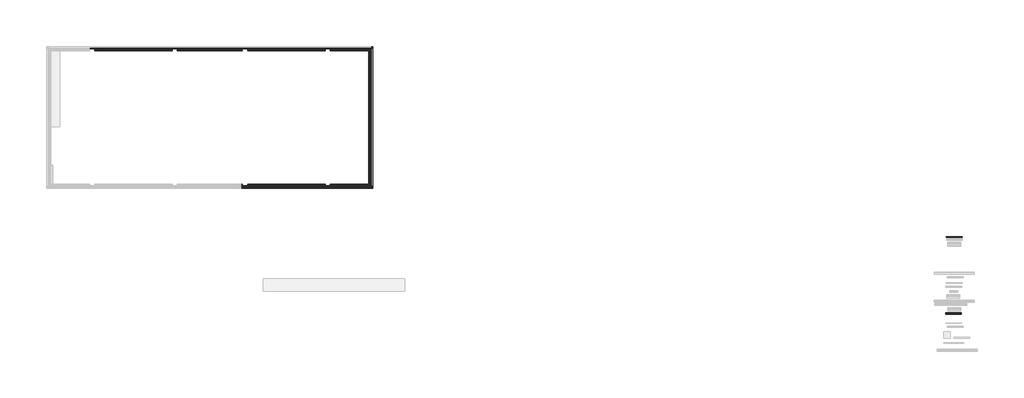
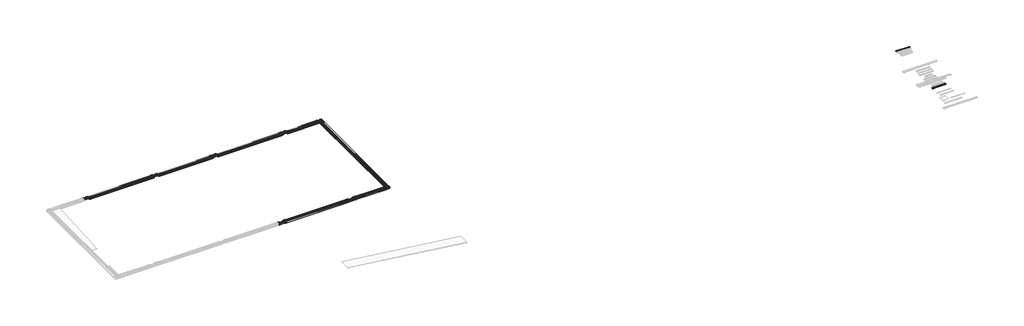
# One storey, part 2 of 2: 60 slabs, 39 proxies.
"""IFC4 building model written with IfcOpenShell, lengths in millimetres."""

from ifc_helpers import new_model, si_unit, origin, place, context, project, spatial, transform, mapped, element, save
from components import generic_models_aabe8a61, generic_models_0c7c71ab, bloque_rs_913_6b054df1, bloque_rs_913_14df28d0, bloque_rs_916_1ec51204, bloque_rs_916_4c591605, bloque_rs_917_cf75d2b8, bloque_rs_917_e40e730b, pieza_043_aqua_blanco_anti_slip_ae11da6b, pieza_043_aqua_blanco_anti_slip_a5cfc191, pieza_087_aqua_blanco_anti_slip_ab740b2f, pieza_087_aqua_blanco_anti_slip_4671dbe1, rejilla_245_e2_blanco_63b6c073, rejilla_245_e2_blanco_29759594, slab_2bb9063e, slab_b30ec969, slab_7c7728e6, slab_9c0a884b, slab_1b1e1d0a, slab_0c901df1, slab_ed70fe2e, slab_fd2e0ca4, slab_71a26456, slab_289a159b, slab_20dd2a74, slab_b96cdf43, slab_47180fc9, slab_3d5daa41, bloque_rs_911_f1c9a022, bloque_rs_911_6005e5c2, bloque_rs_911_18bb1b11, bloque_rs_911_a0e7da75, bloque_rs_911_b258f033, bloque_rs_911_d1067a24, bloque_rs_911_adb8e3b5, bloque_rs_912_abb1421b, bloque_rs_912_fb31ae24, pieza_001_aqua_blanco_anti_slip_76647fb7, pieza_001_aqua_blanco_anti_slip_24dbb15d, pieza_001_aqua_blanco_anti_slip_8ac1aa7c, pieza_001_aqua_blanco_anti_slip_6b46d468, pieza_001_aqua_blanco_anti_slip_ebfc354b, pieza_001_aqua_blanco_anti_slip_42895033, pieza_007_aqua_blanco_anti_slip_a622d274, pieza_007_aqua_blanco_anti_slip_b171d28c, pieza_007_aqua_blanco_anti_slip_7cebcb04, pieza_007_aqua_blanco_anti_slip_9c042eb5, pieza_007_aqua_blanco_anti_slip_1883729b, pieza_007_aqua_blanco_anti_slip_b1f7aa5c, pieza_007_aqua_blanco_anti_slip_9ec02dc4, pieza_007_aqua_blanco_anti_slip_1145e67a, pieza_007_aqua_blanco_anti_slip_c353ac06, pieza_007_aqua_blanco_anti_slip_305f16b2, pieza_007_aqua_blanco_anti_slip_8c3b2fea, pieza_007_aqua_blanco_anti_slip_ac10978e, pieza_007_aqua_blanco_anti_slip_1cb17571, pieza_007_aqua_blanco_anti_slip_492b38b9, pieza_007_aqua_blanco_anti_slip_f325b0ed, pieza_007_aqua_blanco_anti_slip_6f5a8090, rejilla_245_r2_blanco_7187437d

model = new_model("IFC4")

# Units and contexts
model_context = context("Model", 3, world=origin())
ifc_project = project(units=[si_unit("LENGTHUNIT", "METRE", prefix="MILLI")], contexts=[model_context])

# Site, building, storey
site = spatial("IfcSite", under=ifc_project)
building = spatial("IfcBuilding", under=site)
storey = spatial("IfcBuildingStorey", under=building, Name="2_NS9Finlandés", Elevation=-228.3)

# Proxies
placement = place(None, origin())
generic_models_shape = generic_models_aabe8a61(model_context)
element("IfcBuildingElementProxy", 1, Name="Muestra 2.5m 216 Anti-Slip : Muestra 2.5m 216 Anti-Slip", ObjectType="Muestra 2.5m 216 Anti-Slip : Muestra 2.5m 216 Anti-Slip", at=placement, inside=storey, context=model_context, shape_type="MappedRepresentation", body=[
    mapped(generic_models_shape, transform((75500.0, 0.0, 0.0), x_axis=(1.0, 0.0, 0.0), y_axis=(0.0, 1.0, 0.0), z_axis=(0.0, 0.0, 1.0))),
])
generic_models_2_shape = generic_models_0c7c71ab(model_context)
element("IfcBuildingElementProxy", 2, Name="Muestra 2.5m 001 (1fila) : Muestra 2.5m 001(1fila)", ObjectType="Muestra 2.5m 001 (1fila) : Muestra 2.5m 001(1fila)", at=placement, inside=storey, context=model_context, shape_type="MappedRepresentation", body=[
    mapped(generic_models_2_shape, transform((37077.9393403, 20.0597154, 0.0), x_axis=(1.0, 0.0, 0.0), y_axis=(0.0, 1.0, 0.0), z_axis=(0.0, 0.0, 1.0))),
])
bloque_rs_913_shape = bloque_rs_913_6b054df1(model_context)
element("IfcBuildingElementProxy", 3, Name="ROSA GRES_RS 913 : Bloque RS 913", ObjectType="ROSA GRES_RS 913 : Bloque RS 913", at=placement, inside=storey, context=model_context, shape_type="MappedRepresentation", body=[
    mapped(bloque_rs_913_shape, transform((27846.8013437, 50963.368284, -228.3), x_axis=(1.0, 0.0, 0.0), y_axis=(0.0, 1.0, 0.0), z_axis=(0.0, 0.0, 1.0))),
])
bloque_rs_913_2_shape = bloque_rs_913_14df28d0(model_context)
element("IfcBuildingElementProxy", 4, Name="ROSA GRES_RS 913 : Bloque RS 913", ObjectType="ROSA GRES_RS 913 : Bloque RS 913", at=placement, inside=storey, context=model_context, shape_type="MappedRepresentation", body=[
    mapped(bloque_rs_913_2_shape, transform((27846.8013437, 29963.368284, -228.3), x_axis=(1.0, 0.0, 0.0), y_axis=(0.0, 1.0, 0.0), z_axis=(0.0, 0.0, 1.0))),
])
bloque_rs_916_shape = bloque_rs_916_1ec51204(model_context)
element("IfcBuildingElementProxy", 5, Name="ROSA GRES_RS 916 : Bloque RS 916", ObjectType="ROSA GRES_RS 916 : Bloque RS 916", at=placement, inside=storey, context=model_context, shape_type="MappedRepresentation", body=[
    mapped(bloque_rs_916_shape, transform((-2237.6653271, 50963.368284, -228.3), x_axis=(1.0, 0.0, 0.0), y_axis=(0.0, 1.0, 0.0), z_axis=(0.0, 0.0, 1.0))),
])
element("IfcBuildingElementProxy", 6, Name="ROSA GRES_RS 916 : Bloque RS 916", ObjectType="ROSA GRES_RS 916 : Bloque RS 916", at=placement, inside=storey, context=model_context, shape_type="MappedRepresentation", body=[
    mapped(bloque_rs_916_shape, transform((8791.8865551, 50963.368284, -228.3), x_axis=(1.0, 0.0, 0.0), y_axis=(0.0, 1.0, 0.0), z_axis=(0.0, 0.0, 1.0))),
])
element("IfcBuildingElementProxy", 7, Name="ROSA GRES_RS 916 : Bloque RS 916", ObjectType="ROSA GRES_RS 916 : Bloque RS 916", at=placement, inside=storey, context=model_context, shape_type="MappedRepresentation", body=[
    mapped(bloque_rs_916_shape, transform((21791.8636311, 50963.368284, -228.3), x_axis=(1.0, 0.0, 0.0), y_axis=(0.0, 1.0, 0.0), z_axis=(0.0, 0.0, 1.0))),
])
element("IfcBuildingElementProxy", 8, Name="ROSA GRES_RS 916 : Bloque RS 916", ObjectType="ROSA GRES_RS 916 : Bloque RS 916", at=placement, inside=storey, context=model_context, shape_type="MappedRepresentation", body=[
    mapped(bloque_rs_916_shape, transform((-15208.070306, 50963.368284, -228.3), x_axis=(1.0, 0.0, 0.0), y_axis=(0.0, 1.0, 0.0), z_axis=(0.0, 0.0, 1.0))),
])
bloque_rs_916_2_shape = bloque_rs_916_4c591605(model_context)
element("IfcBuildingElementProxy", 9, Name="ROSA GRES_RS 916 : Bloque RS 916", ObjectType="ROSA GRES_RS 916 : Bloque RS 916", at=placement, inside=storey, context=model_context, shape_type="MappedRepresentation", body=[
    mapped(bloque_rs_916_2_shape, transform((21791.8636311, 29963.368284, -228.3), x_axis=(1.0, 0.0, 0.0), y_axis=(0.0, 1.0, 0.0), z_axis=(0.0, 0.0, 1.0))),
])
element("IfcBuildingElementProxy", 10, Name="ROSA GRES_RS 916 : Bloque RS 916", ObjectType="ROSA GRES_RS 916 : Bloque RS 916", at=placement, inside=storey, context=model_context, shape_type="MappedRepresentation", body=[
    mapped(bloque_rs_916_2_shape, transform((8791.8865551, 29963.368284, -228.3), x_axis=(1.0, 0.0, 0.0), y_axis=(0.0, 1.0, 0.0), z_axis=(0.0, 0.0, 1.0))),
])
bloque_rs_917_shape = bloque_rs_917_cf75d2b8(model_context)
element("IfcBuildingElementProxy", 11, Name="ROSA GRES_RS 917 : Bloque RS 917", ObjectType="ROSA GRES_RS 917 : Bloque RS 917", at=placement, inside=storey, context=model_context, shape_type="MappedRepresentation", body=[
    mapped(bloque_rs_917_shape, transform((-3250.6653271, 50963.368284, -228.3), x_axis=(1.0, 0.0, 0.0), y_axis=(0.0, 1.0, 0.0), z_axis=(0.0, 0.0, 1.0))),
])
element("IfcBuildingElementProxy", 12, Name="ROSA GRES_RS 917 : Bloque RS 917", ObjectType="ROSA GRES_RS 917 : Bloque RS 917", at=placement, inside=storey, context=model_context, shape_type="MappedRepresentation", body=[
    mapped(bloque_rs_917_shape, transform((7778.8865551, 50963.368284, -228.3), x_axis=(1.0, 0.0, 0.0), y_axis=(0.0, 1.0, 0.0), z_axis=(0.0, 0.0, 1.0))),
])
element("IfcBuildingElementProxy", 13, Name="ROSA GRES_RS 917 : Bloque RS 917", ObjectType="ROSA GRES_RS 917 : Bloque RS 917", at=placement, inside=storey, context=model_context, shape_type="MappedRepresentation", body=[
    mapped(bloque_rs_917_shape, transform((20778.8636311, 50963.368284, -228.3), x_axis=(1.0, 0.0, 0.0), y_axis=(0.0, 1.0, 0.0), z_axis=(0.0, 0.0, 1.0))),
])
bloque_rs_917_2_shape = bloque_rs_917_e40e730b(model_context)
element("IfcBuildingElementProxy", 14, Name="ROSA GRES_RS 917 : Bloque RS 917", ObjectType="ROSA GRES_RS 917 : Bloque RS 917", at=placement, inside=storey, context=model_context, shape_type="MappedRepresentation", body=[
    mapped(bloque_rs_917_2_shape, transform((20778.8636311, 29963.368284, -228.3), x_axis=(1.0, 0.0, 0.0), y_axis=(0.0, 1.0, 0.0), z_axis=(0.0, 0.0, 1.0))),
])
element("IfcBuildingElementProxy", 15, Name="ROSA GRES_RS 917 : Bloque RS 917", ObjectType="ROSA GRES_RS 917 : Bloque RS 917", at=placement, inside=storey, context=model_context, shape_type="MappedRepresentation", body=[
    mapped(bloque_rs_917_2_shape, transform((7778.8865551, 29963.368284, -228.3), x_axis=(1.0, 0.0, 0.0), y_axis=(0.0, 1.0, 0.0), z_axis=(0.0, 0.0, 1.0))),
])
pieza_043_aqua_blanco_anti_slip_shape = pieza_043_aqua_blanco_anti_slip_ae11da6b(model_context)
element("IfcBuildingElementProxy", 16, Name="ROSA GRES_043 : Pieza 043_Aqua_Blanco_Anti-Slip", ObjectType="ROSA GRES_043 : Pieza 043_Aqua_Blanco_Anti-Slip", at=placement, inside=storey, context=model_context, shape_type="MappedRepresentation", body=[
    mapped(pieza_043_aqua_blanco_anti_slip_shape, transform((-2246.6653271, 50978.632121, -229.5818099), x_axis=(1.0, 0.0, 0.0), y_axis=(0.0, 0.9967037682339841, 0.08112705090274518), z_axis=(0.0, -0.08112705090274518, 0.9967037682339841))),
])
element("IfcBuildingElementProxy", 17, Name="ROSA GRES_043 : Pieza 043_Aqua_Blanco_Anti-Slip", ObjectType="ROSA GRES_043 : Pieza 043_Aqua_Blanco_Anti-Slip", at=placement, inside=storey, context=model_context, shape_type="MappedRepresentation", body=[
    mapped(pieza_043_aqua_blanco_anti_slip_shape, transform((-3046.6653271, 50978.6823052, -228.3617685), x_axis=(0.0, 0.9967037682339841, 0.08112705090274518), y_axis=(-1.0, 0.0, 0.0), z_axis=(0.0, -0.08112705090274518, 0.9967037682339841))),
])
element("IfcBuildingElementProxy", 18, Name="ROSA GRES_043 : Pieza 043_Aqua_Blanco_Anti-Slip", ObjectType="ROSA GRES_043 : Pieza 043_Aqua_Blanco_Anti-Slip", at=placement, inside=storey, context=model_context, shape_type="MappedRepresentation", body=[
    mapped(pieza_043_aqua_blanco_anti_slip_shape, transform((8782.8865551, 50978.632121, -229.5818099), x_axis=(1.0, 0.0, 0.0), y_axis=(0.0, 0.9967037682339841, 0.08112705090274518), z_axis=(0.0, -0.08112705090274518, 0.9967037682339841))),
])
element("IfcBuildingElementProxy", 19, Name="ROSA GRES_043 : Pieza 043_Aqua_Blanco_Anti-Slip", ObjectType="ROSA GRES_043 : Pieza 043_Aqua_Blanco_Anti-Slip", at=placement, inside=storey, context=model_context, shape_type="MappedRepresentation", body=[
    mapped(pieza_043_aqua_blanco_anti_slip_shape, transform((7982.8865551, 50978.6823052, -228.3617685), x_axis=(0.0, 0.9967037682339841, 0.08112705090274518), y_axis=(-1.0, 0.0, 0.0), z_axis=(0.0, -0.08112705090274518, 0.9967037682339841))),
])
element("IfcBuildingElementProxy", 20, Name="ROSA GRES_043 : Pieza 043_Aqua_Blanco_Anti-Slip", ObjectType="ROSA GRES_043 : Pieza 043_Aqua_Blanco_Anti-Slip", at=placement, inside=storey, context=model_context, shape_type="MappedRepresentation", body=[
    mapped(pieza_043_aqua_blanco_anti_slip_shape, transform((21782.8636311, 50978.632121, -229.5818099), x_axis=(1.0, 0.0, 0.0), y_axis=(0.0, 0.9967037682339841, 0.08112705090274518), z_axis=(0.0, -0.08112705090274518, 0.9967037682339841))),
])
element("IfcBuildingElementProxy", 21, Name="ROSA GRES_043 : Pieza 043_Aqua_Blanco_Anti-Slip", ObjectType="ROSA GRES_043 : Pieza 043_Aqua_Blanco_Anti-Slip", at=placement, inside=storey, context=model_context, shape_type="MappedRepresentation", body=[
    mapped(pieza_043_aqua_blanco_anti_slip_shape, transform((20982.8636311, 50978.6823052, -228.3617685), x_axis=(0.0, 0.9967037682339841, 0.08112705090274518), y_axis=(-1.0, 0.0, 0.0), z_axis=(0.0, -0.08112705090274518, 0.9967037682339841))),
])
element("IfcBuildingElementProxy", 22, Name="ROSA GRES_043 : Pieza 043_Aqua_Blanco_Anti-Slip", ObjectType="ROSA GRES_043 : Pieza 043_Aqua_Blanco_Anti-Slip", at=placement, inside=storey, context=model_context, shape_type="MappedRepresentation", body=[
    mapped(pieza_043_aqua_blanco_anti_slip_shape, transform((-15217.070306, 50978.632121, -229.5818099), x_axis=(1.0, 0.0, 0.0), y_axis=(0.0, 0.9967037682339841, 0.08112705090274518), z_axis=(0.0, -0.08112705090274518, 0.9967037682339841))),
])
pieza_043_aqua_blanco_anti_slip_2_shape = pieza_043_aqua_blanco_anti_slip_a5cfc191(model_context)
element("IfcBuildingElementProxy", 23, Name="ROSA GRES_043 : Pieza 043_Aqua_Blanco_Anti-Slip", ObjectType="ROSA GRES_043 : Pieza 043_Aqua_Blanco_Anti-Slip", at=placement, inside=storey, context=model_context, shape_type="MappedRepresentation", body=[
    mapped(pieza_043_aqua_blanco_anti_slip_2_shape, transform((21782.8636311, 29948.1044471, -229.5818099), x_axis=(1.0, 0.0, 0.0), y_axis=(0.0, 0.9967037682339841, -0.08112705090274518), z_axis=(0.0, 0.08112705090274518, 0.9967037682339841))),
])
element("IfcBuildingElementProxy", 24, Name="ROSA GRES_043 : Pieza 043_Aqua_Blanco_Anti-Slip", ObjectType="ROSA GRES_043 : Pieza 043_Aqua_Blanco_Anti-Slip", at=placement, inside=storey, context=model_context, shape_type="MappedRepresentation", body=[
    mapped(pieza_043_aqua_blanco_anti_slip_2_shape, transform((20982.8636311, 29948.0542629, -228.3617685), x_axis=(0.0, -0.9967037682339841, 0.08112705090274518), y_axis=(1.0, 0.0, 0.0), z_axis=(0.0, 0.08112705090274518, 0.9967037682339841))),
])
element("IfcBuildingElementProxy", 25, Name="ROSA GRES_043 : Pieza 043_Aqua_Blanco_Anti-Slip", ObjectType="ROSA GRES_043 : Pieza 043_Aqua_Blanco_Anti-Slip", at=placement, inside=storey, context=model_context, shape_type="MappedRepresentation", body=[
    mapped(pieza_043_aqua_blanco_anti_slip_2_shape, transform((8782.8865551, 29948.1044471, -229.5818099), x_axis=(1.0, 0.0, 0.0), y_axis=(0.0, 0.9967037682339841, -0.08112705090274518), z_axis=(0.0, 0.08112705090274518, 0.9967037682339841))),
])
element("IfcBuildingElementProxy", 26, Name="ROSA GRES_043 : Pieza 043_Aqua_Blanco_Anti-Slip", ObjectType="ROSA GRES_043 : Pieza 043_Aqua_Blanco_Anti-Slip", at=placement, inside=storey, context=model_context, shape_type="MappedRepresentation", body=[
    mapped(pieza_043_aqua_blanco_anti_slip_2_shape, transform((7982.8865551, 29948.0542629, -228.3617685), x_axis=(0.0, -0.9967037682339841, 0.08112705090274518), y_axis=(1.0, 0.0, 0.0), z_axis=(0.0, 0.08112705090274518, 0.9967037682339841))),
])
pieza_087_aqua_blanco_anti_slip_shape = pieza_087_aqua_blanco_anti_slip_ab740b2f(model_context)
element("IfcBuildingElementProxy", 27, Name="ROSA GRES_087 : Pieza 087_Aqua_Blanco_Anti-Slip", ObjectType="ROSA GRES_087 : Pieza 087_Aqua_Blanco_Anti-Slip", at=placement, inside=storey, context=model_context, shape_type="MappedRepresentation", body=[
    mapped(pieza_087_aqua_blanco_anti_slip_shape, transform((-2246.6653271, 51222.8266137, -209.6037698), x_axis=(1.0, 0.0, 0.0), y_axis=(0.0, 0.9967037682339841, 0.08112705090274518), z_axis=(0.0, -0.08112705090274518, 0.9967037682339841))),
])
element("IfcBuildingElementProxy", 28, Name="ROSA GRES_087 : Pieza 087_Aqua_Blanco_Anti-Slip", ObjectType="ROSA GRES_087 : Pieza 087_Aqua_Blanco_Anti-Slip", at=placement, inside=storey, context=model_context, shape_type="MappedRepresentation", body=[
    mapped(pieza_087_aqua_blanco_anti_slip_shape, transform((-3046.6653271, 51222.9449355, -209.5546231), x_axis=(0.0, 0.9967037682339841, 0.08112705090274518), y_axis=(-1.0, 0.0, 0.0), z_axis=(0.0, -0.08112705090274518, 0.9967037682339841))),
])
element("IfcBuildingElementProxy", 29, Name="ROSA GRES_087 : Pieza 087_Aqua_Blanco_Anti-Slip", ObjectType="ROSA GRES_087 : Pieza 087_Aqua_Blanco_Anti-Slip", at=placement, inside=storey, context=model_context, shape_type="MappedRepresentation", body=[
    mapped(pieza_087_aqua_blanco_anti_slip_shape, transform((8782.8865551, 51222.8266137, -209.6037698), x_axis=(1.0, 0.0, 0.0), y_axis=(0.0, 0.9967037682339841, 0.08112705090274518), z_axis=(0.0, -0.08112705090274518, 0.9967037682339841))),
])
element("IfcBuildingElementProxy", 30, Name="ROSA GRES_087 : Pieza 087_Aqua_Blanco_Anti-Slip", ObjectType="ROSA GRES_087 : Pieza 087_Aqua_Blanco_Anti-Slip", at=placement, inside=storey, context=model_context, shape_type="MappedRepresentation", body=[
    mapped(pieza_087_aqua_blanco_anti_slip_shape, transform((7982.8865551, 51222.9449355, -209.5546231), x_axis=(0.0, 0.9967037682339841, 0.08112705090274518), y_axis=(-1.0, 0.0, 0.0), z_axis=(0.0, -0.08112705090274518, 0.9967037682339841))),
])
element("IfcBuildingElementProxy", 31, Name="ROSA GRES_087 : Pieza 087_Aqua_Blanco_Anti-Slip", ObjectType="ROSA GRES_087 : Pieza 087_Aqua_Blanco_Anti-Slip", at=placement, inside=storey, context=model_context, shape_type="MappedRepresentation", body=[
    mapped(pieza_087_aqua_blanco_anti_slip_shape, transform((21782.8636311, 51222.8266137, -209.6037698), x_axis=(1.0, 0.0, 0.0), y_axis=(0.0, 0.9967037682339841, 0.08112705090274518), z_axis=(0.0, -0.08112705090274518, 0.9967037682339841))),
])
element("IfcBuildingElementProxy", 32, Name="ROSA GRES_087 : Pieza 087_Aqua_Blanco_Anti-Slip", ObjectType="ROSA GRES_087 : Pieza 087_Aqua_Blanco_Anti-Slip", at=placement, inside=storey, context=model_context, shape_type="MappedRepresentation", body=[
    mapped(pieza_087_aqua_blanco_anti_slip_shape, transform((20982.8636311, 51222.9449355, -209.5546231), x_axis=(0.0, 0.9967037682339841, 0.08112705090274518), y_axis=(-1.0, 0.0, 0.0), z_axis=(0.0, -0.08112705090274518, 0.9967037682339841))),
])
element("IfcBuildingElementProxy", 33, Name="ROSA GRES_087 : Pieza 087_Aqua_Blanco_Anti-Slip", ObjectType="ROSA GRES_087 : Pieza 087_Aqua_Blanco_Anti-Slip", at=placement, inside=storey, context=model_context, shape_type="MappedRepresentation", body=[
    mapped(pieza_087_aqua_blanco_anti_slip_shape, transform((-15217.070306, 51222.8266137, -209.6037698), x_axis=(1.0, 0.0, 0.0), y_axis=(0.0, 0.9967037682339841, 0.08112705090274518), z_axis=(0.0, -0.08112705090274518, 0.9967037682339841))),
])
pieza_087_aqua_blanco_anti_slip_2_shape = pieza_087_aqua_blanco_anti_slip_4671dbe1(model_context)
element("IfcBuildingElementProxy", 34, Name="ROSA GRES_087 : Pieza 087_Aqua_Blanco_Anti-Slip", ObjectType="ROSA GRES_087 : Pieza 087_Aqua_Blanco_Anti-Slip", at=placement, inside=storey, context=model_context, shape_type="MappedRepresentation", body=[
    mapped(pieza_087_aqua_blanco_anti_slip_2_shape, transform((21782.8636311, 29703.9099543, -209.6037698), x_axis=(1.0, 0.0, 0.0), y_axis=(0.0, 0.9967037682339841, -0.08112705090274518), z_axis=(0.0, 0.08112705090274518, 0.9967037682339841))),
])
element("IfcBuildingElementProxy", 35, Name="ROSA GRES_087 : Pieza 087_Aqua_Blanco_Anti-Slip", ObjectType="ROSA GRES_087 : Pieza 087_Aqua_Blanco_Anti-Slip", at=placement, inside=storey, context=model_context, shape_type="MappedRepresentation", body=[
    mapped(pieza_087_aqua_blanco_anti_slip_2_shape, transform((20982.8636311, 29703.7916326, -209.5546231), x_axis=(0.0, -0.9967037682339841, 0.08112705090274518), y_axis=(1.0, 0.0, 0.0), z_axis=(0.0, 0.08112705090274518, 0.9967037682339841))),
])
element("IfcBuildingElementProxy", 36, Name="ROSA GRES_087 : Pieza 087_Aqua_Blanco_Anti-Slip", ObjectType="ROSA GRES_087 : Pieza 087_Aqua_Blanco_Anti-Slip", at=placement, inside=storey, context=model_context, shape_type="MappedRepresentation", body=[
    mapped(pieza_087_aqua_blanco_anti_slip_2_shape, transform((8782.8865551, 29703.9099543, -209.6037698), x_axis=(1.0, 0.0, 0.0), y_axis=(0.0, 0.9967037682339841, -0.08112705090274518), z_axis=(0.0, 0.08112705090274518, 0.9967037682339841))),
])
element("IfcBuildingElementProxy", 37, Name="ROSA GRES_087 : Pieza 087_Aqua_Blanco_Anti-Slip", ObjectType="ROSA GRES_087 : Pieza 087_Aqua_Blanco_Anti-Slip", at=placement, inside=storey, context=model_context, shape_type="MappedRepresentation", body=[
    mapped(pieza_087_aqua_blanco_anti_slip_2_shape, transform((7982.8865551, 29703.7916326, -209.5546231), x_axis=(0.0, -0.9967037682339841, 0.08112705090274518), y_axis=(1.0, 0.0, 0.0), z_axis=(0.0, 0.08112705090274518, 0.9967037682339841))),
])
rejilla_245_e2_blanco_shape = rejilla_245_e2_blanco_63b6c073(model_context)
element("IfcBuildingElementProxy", 38, Name="ROSA GRES_245 E2 : Rejilla 245 E2_Blanco", ObjectType="ROSA GRES_245 E2 : Rejilla 245 E2_Blanco", at=placement, inside=storey, context=model_context, shape_type="MappedRepresentation", body=[
    mapped(rejilla_245_e2_blanco_shape, transform((28216.3559964, 29593.7774044, -228.3), x_axis=(0.0, -1.0, 0.0), y_axis=(1.0, 0.0, 0.0), z_axis=(0.0, 0.0, 1.0))),
])
rejilla_245_e2_blanco_2_shape = rejilla_245_e2_blanco_29759594(model_context)
element("IfcBuildingElementProxy", 39, Name="ROSA GRES_245 E2 : Rejilla 245 E2_Blanco", ObjectType="ROSA GRES_245 E2 : Rejilla 245 E2_Blanco", at=placement, inside=storey, context=model_context, shape_type="MappedRepresentation", body=[
    mapped(rejilla_245_e2_blanco_2_shape, transform((28216.3559964, 51332.9591637, -228.3), x_axis=(0.0, 1.0, 0.0), y_axis=(-1.0, 0.0, 0.0), z_axis=(0.0, 0.0, 1.0))),
])

# Slabs
slab_shape = slab_2bb9063e(model_context)
element("IfcSlab", 40, ObjectType="ROSA GRES_001 (2 filas) : Piezas 001_Aqua_Blanco_Anti-Slip", at=placement, inside=storey, context=model_context, shape_type="MappedRepresentation", body=[
    mapped(slab_shape, transform((-14622.6451116, 50963.368284, -228.3), x_axis=(1.0, 0.0, 0.0), y_axis=(0.0, 1.0, 0.0), z_axis=(0.0, 0.0, 1.0))),
])
slab_2_shape = slab_b30ec969(model_context)
element("IfcSlab", 41, ObjectType="ROSA GRES_001 (2 filas) : Piezas 001_Aqua_Blanco_Anti-Slip", at=placement, inside=storey, context=model_context, shape_type="MappedRepresentation", body=[
    mapped(slab_2_shape, transform((-1638.7454799, 50963.368284, -228.3), x_axis=(1.0, 0.0, 0.0), y_axis=(0.0, 1.0, 0.0), z_axis=(0.0, 0.0, 1.0))),
])
slab_3_shape = slab_7c7728e6(model_context)
element("IfcSlab", 42, ObjectType="ROSA GRES_001 (2 filas) : Piezas 001_Aqua_Blanco_Anti-Slip", at=placement, inside=storey, context=model_context, shape_type="MappedRepresentation", body=[
    mapped(slab_3_shape, transform((9361.6541104, 50963.368284, -228.3), x_axis=(1.0, 0.0, 0.0), y_axis=(0.0, 1.0, 0.0), z_axis=(0.0, 0.0, 1.0))),
])
slab_4_shape = slab_9c0a884b(model_context)
element("IfcSlab", 43, ObjectType="ROSA GRES_001 (2 filas) : Piezas 001_Aqua_Blanco_Anti-Slip", at=placement, inside=storey, context=model_context, shape_type="MappedRepresentation", body=[
    mapped(slab_4_shape, transform((-14622.6451116, 50963.368284, -228.3), x_axis=(-1.0, 0.0, 0.0), y_axis=(0.0, -1.0, 0.0), z_axis=(0.0, 0.0, 1.0))),
])
slab_5_shape = slab_1b1e1d0a(model_context)
element("IfcSlab", 44, ObjectType="ROSA GRES_001 (2 filas) : Piezas 001_Aqua_Blanco_Anti-Slip", at=placement, inside=storey, context=model_context, shape_type="MappedRepresentation", body=[
    mapped(slab_5_shape, transform((-1638.7454799, 50963.368284, -228.3), x_axis=(-1.0, 0.0, 0.0), y_axis=(0.0, -1.0, 0.0), z_axis=(0.0, 0.0, 1.0))),
])
slab_6_shape = slab_0c901df1(model_context)
element("IfcSlab", 45, ObjectType="ROSA GRES_001 (2 filas) : Piezas 001_Aqua_Blanco_Anti-Slip", at=placement, inside=storey, context=model_context, shape_type="MappedRepresentation", body=[
    mapped(slab_6_shape, transform((9361.6541104, 50963.368284, -228.3), x_axis=(-1.0, 0.0, 0.0), y_axis=(0.0, -1.0, 0.0), z_axis=(0.0, 0.0, 1.0))),
])
slab_7_shape = slab_ed70fe2e(model_context)
element("IfcSlab", 46, ObjectType="ROSA GRES_001 (2 filas) : Piezas 001_Aqua_Blanco_Anti-Slip", at=placement, inside=storey, context=model_context, shape_type="MappedRepresentation", body=[
    mapped(slab_7_shape, transform((22347.9297857, 50963.368284, -228.3), x_axis=(-1.0, 0.0, 0.0), y_axis=(0.0, -1.0, 0.0), z_axis=(0.0, 0.0, 1.0))),
])
slab_8_shape = slab_fd2e0ca4(model_context)
element("IfcSlab", 47, ObjectType="ROSA GRES_001 (2 filas) : Piezas 001_Aqua_Blanco_Anti-Slip", at=placement, inside=storey, context=model_context, shape_type="MappedRepresentation", body=[
    mapped(slab_8_shape, transform((9361.6541104, 29963.368284, -228.3), x_axis=(1.0, 0.0, 0.0), y_axis=(0.0, 1.0, 0.0), z_axis=(0.0, 0.0, 1.0))),
])
slab_9_shape = slab_71a26456(model_context)
element("IfcSlab", 48, ObjectType="ROSA GRES_001 (2 filas) : Piezas 001_Aqua_Blanco_Anti-Slip", at=placement, inside=storey, context=model_context, shape_type="MappedRepresentation", body=[
    mapped(slab_9_shape, transform((9361.6541104, 29963.368284, -228.3), x_axis=(-1.0, 0.0, 0.0), y_axis=(0.0, -1.0, 0.0), z_axis=(0.0, 0.0, 1.0))),
])
slab_10_shape = slab_289a159b(model_context)
element("IfcSlab", 49, ObjectType="ROSA GRES_001 (2 filas) : Piezas 001_Aqua_Blanco_Anti-Slip", at=placement, inside=storey, context=model_context, shape_type="MappedRepresentation", body=[
    mapped(slab_10_shape, transform((22347.9297857, 29963.368284, -228.3), x_axis=(-1.0, 0.0, 0.0), y_axis=(0.0, -1.0, 0.0), z_axis=(0.0, 0.0, 1.0))),
])
slab_11_shape = slab_20dd2a74(model_context)
element("IfcSlab", 50, ObjectType="ROSA GRES_001 (2 filas) : Piezas 001_Aqua_Blanco_Anti-Slip", at=placement, inside=storey, context=model_context, shape_type="MappedRepresentation", body=[
    mapped(slab_11_shape, transform((22347.9297857, 50963.368284, -228.3), x_axis=(1.0, 0.0, 0.0), y_axis=(0.0, 1.0, 0.0), z_axis=(0.0, 0.0, 1.0))),
])
slab_12_shape = slab_b96cdf43(model_context)
element("IfcSlab", 51, ObjectType="ROSA GRES_001 (2 filas) : Piezas 001_Aqua_Blanco_Anti-Slip", at=placement, inside=storey, context=model_context, shape_type="MappedRepresentation", body=[
    mapped(slab_12_shape, transform((27846.7651167, 50493.3948726, -228.3), x_axis=(0.0, 1.0, 0.0), y_axis=(-1.0, 0.0, 0.0), z_axis=(0.0, 0.0, 1.0))),
])
slab_13_shape = slab_47180fc9(model_context)
element("IfcSlab", 52, ObjectType="ROSA GRES_001 (2 filas) : Piezas 001_Aqua_Blanco_Anti-Slip", at=placement, inside=storey, context=model_context, shape_type="MappedRepresentation", body=[
    mapped(slab_13_shape, transform((27846.7651167, 50493.3948726, -228.3), x_axis=(0.0, -1.0, 0.0), y_axis=(1.0, 0.0, 0.0), z_axis=(0.0, 0.0, 1.0))),
])
slab_14_shape = slab_3d5daa41(model_context)
element("IfcSlab", 53, ObjectType="ROSA GRES_001 (2 filas) : Piezas 001_Aqua_Blanco_Anti-Slip", at=placement, inside=storey, context=model_context, shape_type="MappedRepresentation", body=[
    mapped(slab_14_shape, transform((22347.9297857, 29963.368284, -228.3), x_axis=(1.0, 0.0, 0.0), y_axis=(0.0, 1.0, 0.0), z_axis=(0.0, 0.0, 1.0))),
])
bloque_rs_911_shape = bloque_rs_911_f1c9a022(model_context)
element("IfcSlab", 54, ObjectType="ROSA GRES_RS 911 : Bloque_RS 911", at=placement, inside=storey, context=model_context, shape_type="MappedRepresentation", body=[
    mapped(bloque_rs_911_shape, transform((-15013.070306, 50963.368284, -228.3), x_axis=(1.0, 0.0, 0.0), y_axis=(0.0, 1.0, 0.0), z_axis=(0.0, 0.0, 1.0))),
])
bloque_rs_911_2_shape = bloque_rs_911_6005e5c2(model_context)
element("IfcSlab", 55, ObjectType="ROSA GRES_RS 911 : Bloque_RS 911", at=placement, inside=storey, context=model_context, shape_type="MappedRepresentation", body=[
    mapped(bloque_rs_911_2_shape, transform((27846.7651167, 50907.6341705, -228.3), x_axis=(0.0, -1.0, 0.0), y_axis=(1.0, 0.0, 0.0), z_axis=(0.0, 0.0, 1.0))),
])
bloque_rs_911_3_shape = bloque_rs_911_18bb1b11(model_context)
element("IfcSlab", 56, ObjectType="ROSA GRES_RS 911 : Bloque_RS 911", at=placement, inside=storey, context=model_context, shape_type="MappedRepresentation", body=[
    mapped(bloque_rs_911_3_shape, transform((21986.8636311, 50963.368284, -228.3), x_axis=(1.0, 0.0, 0.0), y_axis=(0.0, 1.0, 0.0), z_axis=(0.0, 0.0, 1.0))),
])
bloque_rs_911_4_shape = bloque_rs_911_a0e7da75(model_context)
element("IfcSlab", 57, ObjectType="ROSA GRES_RS 911 : Bloque_RS 911", at=placement, inside=storey, context=model_context, shape_type="MappedRepresentation", body=[
    mapped(bloque_rs_911_4_shape, transform((-2042.6653271, 50963.368284, -228.3), x_axis=(1.0, 0.0, 0.0), y_axis=(0.0, 1.0, 0.0), z_axis=(0.0, 0.0, 1.0))),
])
bloque_rs_911_5_shape = bloque_rs_911_b258f033(model_context)
element("IfcSlab", 58, ObjectType="ROSA GRES_RS 911 : Bloque_RS 911", at=placement, inside=storey, context=model_context, shape_type="MappedRepresentation", body=[
    mapped(bloque_rs_911_5_shape, transform((8986.8865551, 50963.368284, -228.3), x_axis=(1.0, 0.0, 0.0), y_axis=(0.0, 1.0, 0.0), z_axis=(0.0, 0.0, 1.0))),
])
bloque_rs_911_6_shape = bloque_rs_911_d1067a24(model_context)
element("IfcSlab", 59, ObjectType="ROSA GRES_RS 911 : Bloque_RS 911", at=placement, inside=storey, context=model_context, shape_type="MappedRepresentation", body=[
    mapped(bloque_rs_911_6_shape, transform((21986.8636311, 29963.368284, -228.3), x_axis=(1.0, 0.0, 0.0), y_axis=(0.0, 1.0, 0.0), z_axis=(0.0, 0.0, 1.0))),
])
bloque_rs_911_7_shape = bloque_rs_911_adb8e3b5(model_context)
element("IfcSlab", 60, ObjectType="ROSA GRES_RS 911 : Bloque_RS 911", at=placement, inside=storey, context=model_context, shape_type="MappedRepresentation", body=[
    mapped(bloque_rs_911_7_shape, transform((8986.8865551, 29963.368284, -228.3), x_axis=(1.0, 0.0, 0.0), y_axis=(0.0, 1.0, 0.0), z_axis=(0.0, 0.0, 1.0))),
])
bloque_rs_912_shape = bloque_rs_912_abb1421b(model_context)
element("IfcSlab", 61, ObjectType="ROSA GRES_RS 912 : Bloque_RS 912", at=placement, inside=storey, context=model_context, shape_type="MappedRepresentation", body=[
    mapped(bloque_rs_912_shape, transform((-2246.6653271, 50963.368284, -228.3), x_axis=(-1.0, 0.0, 0.0), y_axis=(0.0, -1.0, 0.0), z_axis=(0.0, 0.0, 1.0))),
])
element("IfcSlab", 62, ObjectType="ROSA GRES_RS 912 : Bloque_RS 912", at=placement, inside=storey, context=model_context, shape_type="MappedRepresentation", body=[
    mapped(bloque_rs_912_shape, transform((8782.8865551, 50963.368284, -228.3), x_axis=(-1.0, 0.0, 0.0), y_axis=(0.0, -1.0, 0.0), z_axis=(0.0, 0.0, 1.0))),
])
element("IfcSlab", 63, ObjectType="ROSA GRES_RS 912 : Bloque_RS 912", at=placement, inside=storey, context=model_context, shape_type="MappedRepresentation", body=[
    mapped(bloque_rs_912_shape, transform((21782.8636311, 50963.368284, -228.3), x_axis=(-1.0, 0.0, 0.0), y_axis=(0.0, -1.0, 0.0), z_axis=(0.0, 0.0, 1.0))),
])
element("IfcSlab", 64, ObjectType="ROSA GRES_RS 912 : Bloque_RS 912", at=placement, inside=storey, context=model_context, shape_type="MappedRepresentation", body=[
    mapped(bloque_rs_912_shape, transform((-15217.070306, 50963.368284, -228.3), x_axis=(-1.0, 0.0, 0.0), y_axis=(0.0, -1.0, 0.0), z_axis=(0.0, 0.0, 1.0))),
])
bloque_rs_912_2_shape = bloque_rs_912_fb31ae24(model_context)
element("IfcSlab", 65, ObjectType="ROSA GRES_RS 912 : Bloque_RS 912", at=placement, inside=storey, context=model_context, shape_type="MappedRepresentation", body=[
    mapped(bloque_rs_912_2_shape, transform((21782.8636311, 29963.368284, -228.3), x_axis=(-1.0, 0.0, 0.0), y_axis=(0.0, -1.0, 0.0), z_axis=(0.0, 0.0, 1.0))),
])
element("IfcSlab", 66, ObjectType="ROSA GRES_RS 912 : Bloque_RS 912", at=placement, inside=storey, context=model_context, shape_type="MappedRepresentation", body=[
    mapped(bloque_rs_912_2_shape, transform((8782.8865551, 29963.368284, -228.3), x_axis=(-1.0, 0.0, 0.0), y_axis=(0.0, -1.0, 0.0), z_axis=(0.0, 0.0, 1.0))),
])
pieza_001_aqua_blanco_anti_slip_shape = pieza_001_aqua_blanco_anti_slip_76647fb7(model_context)
element("IfcSlab", 67, ObjectType="ROSA GRES_001 (corte) : Pieza 001_Aqua_Blanco_Anti-Slip", at=placement, inside=storey, context=model_context, shape_type="MappedRepresentation", body=[
    mapped(pieza_001_aqua_blanco_anti_slip_shape, transform((27969.398967, 51211.2306325, -18.4756919), x_axis=(1.0, 0.0, 0.0), y_axis=(0.0, 1.0, 0.0), z_axis=(0.0, 0.0, 1.0))),
])
element("IfcSlab", 68, ObjectType="ROSA GRES_001 (corte) : Pieza 001_Aqua_Blanco_Anti-Slip", at=placement, inside=storey, context=model_context, shape_type="MappedRepresentation", body=[
    mapped(pieza_001_aqua_blanco_anti_slip_shape, transform((27844.8113947, 51086.6784518, -28.6136601), x_axis=(1.0, 0.0, 0.0), y_axis=(0.0, 1.0, 0.0), z_axis=(0.0, 0.0, 1.0))),
])
element("IfcSlab", 69, ObjectType="ROSA GRES_001 (corte) : Pieza 001_Aqua_Blanco_Anti-Slip", at=placement, inside=storey, context=model_context, shape_type="MappedRepresentation", body=[
    mapped(pieza_001_aqua_blanco_anti_slip_shape, transform((28095.5428245, 29840.1155993, -18.401186), x_axis=(0.0, -1.0, 0.0), y_axis=(1.0, 0.0, 0.0), z_axis=(0.0, 0.0, 1.0))),
])
element("IfcSlab", 70, ObjectType="ROSA GRES_001 (corte) : Pieza 001_Aqua_Blanco_Anti-Slip", at=placement, inside=storey, context=model_context, shape_type="MappedRepresentation", body=[
    mapped(pieza_001_aqua_blanco_anti_slip_shape, transform((27970.2040449, 29964.7031716, -28.5604416), x_axis=(0.0, -1.0, 0.0), y_axis=(1.0, 0.0, 0.0), z_axis=(0.0, 0.0, 1.0))),
])
pieza_001_aqua_blanco_anti_slip_2_shape = pieza_001_aqua_blanco_anti_slip_24dbb15d(model_context)
element("IfcSlab", 71, ObjectType="ROSA GRES_001 (corte) : Pieza 001_Aqua_Blanco_Anti-Slip", at=placement, inside=storey, context=model_context, shape_type="MappedRepresentation", body=[
    mapped(pieza_001_aqua_blanco_anti_slip_2_shape, transform((28095.5428245, 51086.6209688, -18.401186), x_axis=(0.0, 1.0, 0.0), y_axis=(-1.0, 0.0, 0.0), z_axis=(0.0, 0.0, 1.0))),
])
element("IfcSlab", 72, ObjectType="ROSA GRES_001 (corte) : Pieza 001_Aqua_Blanco_Anti-Slip", at=placement, inside=storey, context=model_context, shape_type="MappedRepresentation", body=[
    mapped(pieza_001_aqua_blanco_anti_slip_2_shape, transform((27970.2040449, 50962.0333965, -28.5604416), x_axis=(0.0, 1.0, 0.0), y_axis=(-1.0, 0.0, 0.0), z_axis=(0.0, 0.0, 1.0))),
])
element("IfcSlab", 73, ObjectType="ROSA GRES_001 (corte) : Pieza 001_Aqua_Blanco_Anti-Slip", at=placement, inside=storey, context=model_context, shape_type="MappedRepresentation", body=[
    mapped(pieza_001_aqua_blanco_anti_slip_2_shape, transform((27969.398967, 29715.5059356, -18.4756919), x_axis=(1.0, 0.0, 0.0), y_axis=(0.0, 1.0, 0.0), z_axis=(0.0, 0.0, 1.0))),
])
element("IfcSlab", 74, ObjectType="ROSA GRES_001 (corte) : Pieza 001_Aqua_Blanco_Anti-Slip", at=placement, inside=storey, context=model_context, shape_type="MappedRepresentation", body=[
    mapped(pieza_001_aqua_blanco_anti_slip_2_shape, transform((27844.8113947, 29840.0581163, -28.6136601), x_axis=(1.0, 0.0, 0.0), y_axis=(0.0, 1.0, 0.0), z_axis=(0.0, 0.0, 1.0))),
])
pieza_001_aqua_blanco_anti_slip_3_shape = pieza_001_aqua_blanco_anti_slip_8ac1aa7c(model_context)
element("IfcSlab", 75, ObjectType="ROSA GRES_001 (1 fila) : Pieza 001_Aqua_Blanco_Anti-Slip", at=placement, inside=storey, context=model_context, shape_type="MappedRepresentation", body=[
    mapped(pieza_001_aqua_blanco_anti_slip_3_shape, transform((27844.8113947, 51091.849467, -218.1725123), x_axis=(1.0, 0.0, 0.0), y_axis=(0.0, 1.0, 0.0), z_axis=(0.0, 0.0, 1.0))),
])
pieza_001_aqua_blanco_anti_slip_4_shape = pieza_001_aqua_blanco_anti_slip_6b46d468(model_context)
element("IfcSlab", 76, ObjectType="ROSA GRES_001 (1 fila) : Pieza 001_Aqua_Blanco_Anti-Slip", at=placement, inside=storey, context=model_context, shape_type="MappedRepresentation", body=[
    mapped(pieza_001_aqua_blanco_anti_slip_4_shape, transform((27976.161659, 51091.849467, -218.0980063), x_axis=(0.0, -1.0, 0.0), y_axis=(1.0, 0.0, 0.0), z_axis=(0.0, 0.0, 1.0))),
])
pieza_001_aqua_blanco_anti_slip_5_shape = pieza_001_aqua_blanco_anti_slip_ebfc354b(model_context)
element("IfcSlab", 77, ObjectType="ROSA GRES_001 (1 fila) : Pieza 001_Aqua_Blanco_Anti-Slip", at=placement, inside=storey, context=model_context, shape_type="MappedRepresentation", body=[
    mapped(pieza_001_aqua_blanco_anti_slip_5_shape, transform((27844.8113947, 29834.8871011, -218.1725123), x_axis=(1.0, 0.0, 0.0), y_axis=(0.0, 1.0, 0.0), z_axis=(0.0, 0.0, 1.0))),
])
pieza_001_aqua_blanco_anti_slip_6_shape = pieza_001_aqua_blanco_anti_slip_42895033(model_context)
element("IfcSlab", 78, ObjectType="ROSA GRES_001 (1 fila) : Pieza 001_Aqua_Blanco_Anti-Slip", at=placement, inside=storey, context=model_context, shape_type="MappedRepresentation", body=[
    mapped(pieza_001_aqua_blanco_anti_slip_6_shape, transform((27976.161659, 29834.8871011, -218.0980063), x_axis=(0.0, 1.0, 0.0), y_axis=(-1.0, 0.0, 0.0), z_axis=(0.0, 0.0, 1.0))),
])
pieza_007_aqua_blanco_anti_slip_shape = pieza_007_aqua_blanco_anti_slip_a622d274(model_context)
element("IfcSlab", 79, ObjectType="ROSA GRES_007 (ref. RS912) : Pieza 007_Aqua_Blanco_Anti-Slip", at=placement, inside=storey, context=model_context, shape_type="MappedRepresentation", body=[
    mapped(pieza_007_aqua_blanco_anti_slip_shape, transform((-2921.9553614, 50963.368284, -228.3), x_axis=(1.0, 0.0, 0.0), y_axis=(0.0, 1.0, 0.0), z_axis=(0.0, 0.0, 1.0))),
])
element("IfcSlab", 80, ObjectType="ROSA GRES_007 (ref. RS912) : Pieza 007_Aqua_Blanco_Anti-Slip", at=placement, inside=storey, context=model_context, shape_type="MappedRepresentation", body=[
    mapped(pieza_007_aqua_blanco_anti_slip_shape, transform((8107.5965208, 50963.368284, -228.3), x_axis=(1.0, 0.0, 0.0), y_axis=(0.0, 1.0, 0.0), z_axis=(0.0, 0.0, 1.0))),
])
element("IfcSlab", 81, ObjectType="ROSA GRES_007 (ref. RS912) : Pieza 007_Aqua_Blanco_Anti-Slip", at=placement, inside=storey, context=model_context, shape_type="MappedRepresentation", body=[
    mapped(pieza_007_aqua_blanco_anti_slip_shape, transform((21107.5735967, 50963.368284, -228.3), x_axis=(1.0, 0.0, 0.0), y_axis=(0.0, 1.0, 0.0), z_axis=(0.0, 0.0, 1.0))),
])
element("IfcSlab", 82, ObjectType="ROSA GRES_007 (ref. RS912) : Pieza 007_Aqua_Blanco_Anti-Slip", at=placement, inside=storey, context=model_context, shape_type="MappedRepresentation", body=[
    mapped(pieza_007_aqua_blanco_anti_slip_shape, transform((-15892.3603404, 50963.368284, -228.3), x_axis=(1.0, 0.0, 0.0), y_axis=(0.0, 1.0, 0.0), z_axis=(0.0, 0.0, 1.0))),
])
pieza_007_aqua_blanco_anti_slip_2_shape = pieza_007_aqua_blanco_anti_slip_b171d28c(model_context)
element("IfcSlab", 83, ObjectType="ROSA GRES_007 (ref. RS912) : Pieza 007_Aqua_Blanco_Anti-Slip", at=placement, inside=storey, context=model_context, shape_type="MappedRepresentation", body=[
    mapped(pieza_007_aqua_blanco_anti_slip_2_shape, transform((21107.5735967, 29963.368284, -228.3), x_axis=(1.0, 0.0, 0.0), y_axis=(0.0, 1.0, 0.0), z_axis=(0.0, 0.0, 1.0))),
])
element("IfcSlab", 84, ObjectType="ROSA GRES_007 (ref. RS912) : Pieza 007_Aqua_Blanco_Anti-Slip", at=placement, inside=storey, context=model_context, shape_type="MappedRepresentation", body=[
    mapped(pieza_007_aqua_blanco_anti_slip_2_shape, transform((8107.5965208, 29963.368284, -228.3), x_axis=(1.0, 0.0, 0.0), y_axis=(0.0, 1.0, 0.0), z_axis=(0.0, 0.0, 1.0))),
])
pieza_007_aqua_blanco_anti_slip_3_shape = pieza_007_aqua_blanco_anti_slip_7cebcb04(model_context)
element("IfcSlab", 85, ObjectType="ROSA GRES_007 : Pieza 007_Aqua_Blanco_Anti-Slip", at=placement, inside=storey, context=model_context, shape_type="MappedRepresentation", body=[
    mapped(pieza_007_aqua_blanco_anti_slip_3_shape, transform((9361.6541104, 29963.368284, -228.3), x_axis=(1.0, 0.0, 0.0), y_axis=(0.0, 1.0, 0.0), z_axis=(0.0, 0.0, 1.0))),
])
pieza_007_aqua_blanco_anti_slip_4_shape = pieza_007_aqua_blanco_anti_slip_9c042eb5(model_context)
element("IfcSlab", 86, ObjectType="ROSA GRES_007 : Pieza 007_Aqua_Blanco_Anti-Slip", at=placement, inside=storey, context=model_context, shape_type="MappedRepresentation", body=[
    mapped(pieza_007_aqua_blanco_anti_slip_4_shape, transform((22347.9297857, 29963.368284, -228.3), x_axis=(1.0, 0.0, 0.0), y_axis=(0.0, 1.0, 0.0), z_axis=(0.0, 0.0, 1.0))),
])
pieza_007_aqua_blanco_anti_slip_5_shape = pieza_007_aqua_blanco_anti_slip_1883729b(model_context)
element("IfcSlab", 87, ObjectType="ROSA GRES_007 : Pieza 007_Aqua_Blanco_Anti-Slip", at=placement, inside=storey, context=model_context, shape_type="MappedRepresentation", body=[
    mapped(pieza_007_aqua_blanco_anti_slip_5_shape, transform((22347.9297857, 50963.368284, -228.3), x_axis=(1.0, 0.0, 0.0), y_axis=(0.0, 1.0, 0.0), z_axis=(0.0, 0.0, 1.0))),
])
pieza_007_aqua_blanco_anti_slip_6_shape = pieza_007_aqua_blanco_anti_slip_b1f7aa5c(model_context)
element("IfcSlab", 88, ObjectType="ROSA GRES_007 : Pieza 007_Aqua_Blanco_Anti-Slip", at=placement, inside=storey, context=model_context, shape_type="MappedRepresentation", body=[
    mapped(pieza_007_aqua_blanco_anti_slip_6_shape, transform((9361.6541104, 50963.368284, -228.3), x_axis=(1.0, 0.0, 0.0), y_axis=(0.0, 1.0, 0.0), z_axis=(0.0, 0.0, 1.0))),
])
pieza_007_aqua_blanco_anti_slip_7_shape = pieza_007_aqua_blanco_anti_slip_9ec02dc4(model_context)
element("IfcSlab", 89, ObjectType="ROSA GRES_007 : Pieza 007_Aqua_Blanco_Anti-Slip", at=placement, inside=storey, context=model_context, shape_type="MappedRepresentation", body=[
    mapped(pieza_007_aqua_blanco_anti_slip_7_shape, transform((-1638.7454799, 50963.368284, -228.3), x_axis=(1.0, 0.0, 0.0), y_axis=(0.0, 1.0, 0.0), z_axis=(0.0, 0.0, 1.0))),
])
pieza_007_aqua_blanco_anti_slip_8_shape = pieza_007_aqua_blanco_anti_slip_1145e67a(model_context)
element("IfcSlab", 90, ObjectType="ROSA GRES_007 : Pieza 007_Aqua_Blanco_Anti-Slip", at=placement, inside=storey, context=model_context, shape_type="MappedRepresentation", body=[
    mapped(pieza_007_aqua_blanco_anti_slip_8_shape, transform((-14622.6451116, 50963.368284, -228.3), x_axis=(1.0, 0.0, 0.0), y_axis=(0.0, 1.0, 0.0), z_axis=(0.0, 0.0, 1.0))),
])
pieza_007_aqua_blanco_anti_slip_9_shape = pieza_007_aqua_blanco_anti_slip_c353ac06(model_context)
element("IfcSlab", 91, ObjectType="ROSA GRES_007 : Pieza 007_Aqua_Blanco_Anti-Slip", at=placement, inside=storey, context=model_context, shape_type="MappedRepresentation", body=[
    mapped(pieza_007_aqua_blanco_anti_slip_9_shape, transform((-1638.7454799, 50963.368284, -228.3), x_axis=(-1.0, 0.0, 0.0), y_axis=(0.0, -1.0, 0.0), z_axis=(0.0, 0.0, 1.0))),
])
pieza_007_aqua_blanco_anti_slip_10_shape = pieza_007_aqua_blanco_anti_slip_305f16b2(model_context)
element("IfcSlab", 92, ObjectType="ROSA GRES_007 : Pieza 007_Aqua_Blanco_Anti-Slip", at=placement, inside=storey, context=model_context, shape_type="MappedRepresentation", body=[
    mapped(pieza_007_aqua_blanco_anti_slip_10_shape, transform((9361.6541104, 50963.368284, -228.3), x_axis=(-1.0, 0.0, 0.0), y_axis=(0.0, -1.0, 0.0), z_axis=(0.0, 0.0, 1.0))),
])
pieza_007_aqua_blanco_anti_slip_11_shape = pieza_007_aqua_blanco_anti_slip_8c3b2fea(model_context)
element("IfcSlab", 93, ObjectType="ROSA GRES_007 : Pieza 007_Aqua_Blanco_Anti-Slip", at=placement, inside=storey, context=model_context, shape_type="MappedRepresentation", body=[
    mapped(pieza_007_aqua_blanco_anti_slip_11_shape, transform((22347.9297857, 50963.368284, -228.3), x_axis=(-1.0, 0.0, 0.0), y_axis=(0.0, -1.0, 0.0), z_axis=(0.0, 0.0, 1.0))),
])
pieza_007_aqua_blanco_anti_slip_12_shape = pieza_007_aqua_blanco_anti_slip_ac10978e(model_context)
element("IfcSlab", 94, ObjectType="ROSA GRES_007 : Pieza 007_Aqua_Blanco_Anti-Slip", at=placement, inside=storey, context=model_context, shape_type="MappedRepresentation", body=[
    mapped(pieza_007_aqua_blanco_anti_slip_12_shape, transform((22347.9297857, 29963.368284, -228.3), x_axis=(-1.0, 0.0, 0.0), y_axis=(0.0, -1.0, 0.0), z_axis=(0.0, 0.0, 1.0))),
])
pieza_007_aqua_blanco_anti_slip_13_shape = pieza_007_aqua_blanco_anti_slip_1cb17571(model_context)
element("IfcSlab", 95, ObjectType="ROSA GRES_007 : Pieza 007_Aqua_Blanco_Anti-Slip", at=placement, inside=storey, context=model_context, shape_type="MappedRepresentation", body=[
    mapped(pieza_007_aqua_blanco_anti_slip_13_shape, transform((9361.6541104, 29963.368284, -228.3), x_axis=(-1.0, 0.0, 0.0), y_axis=(0.0, -1.0, 0.0), z_axis=(0.0, 0.0, 1.0))),
])
pieza_007_aqua_blanco_anti_slip_14_shape = pieza_007_aqua_blanco_anti_slip_492b38b9(model_context)
element("IfcSlab", 96, ObjectType="ROSA GRES_007 : Pieza 007_Aqua_Blanco_Anti-Slip", at=placement, inside=storey, context=model_context, shape_type="MappedRepresentation", body=[
    mapped(pieza_007_aqua_blanco_anti_slip_14_shape, transform((-14622.6451116, 50963.368284, -228.3), x_axis=(-1.0, 0.0, 0.0), y_axis=(0.0, -1.0, 0.0), z_axis=(0.0, 0.0, 1.0))),
])
pieza_007_aqua_blanco_anti_slip_15_shape = pieza_007_aqua_blanco_anti_slip_f325b0ed(model_context)
element("IfcSlab", 97, ObjectType="ROSA GRES_007 : Pieza 007_Aqua_Blanco_Anti-Slip", at=placement, inside=storey, context=model_context, shape_type="MappedRepresentation", body=[
    mapped(pieza_007_aqua_blanco_anti_slip_15_shape, transform((27846.7651167, 50493.3948726, -228.3), x_axis=(0.0, -1.0, 0.0), y_axis=(1.0, 0.0, 0.0), z_axis=(0.0, 0.0, 1.0))),
])
pieza_007_aqua_blanco_anti_slip_16_shape = pieza_007_aqua_blanco_anti_slip_6f5a8090(model_context)
element("IfcSlab", 98, ObjectType="ROSA GRES_007 : Pieza 007_Aqua_Blanco_Anti-Slip", at=placement, inside=storey, context=model_context, shape_type="MappedRepresentation", body=[
    mapped(pieza_007_aqua_blanco_anti_slip_16_shape, transform((27846.7651167, 50493.3948726, -228.3), x_axis=(0.0, 1.0, 0.0), y_axis=(-1.0, 0.0, 0.0), z_axis=(0.0, 0.0, 1.0))),
])
rejilla_245_r2_blanco_shape = rejilla_245_r2_blanco_7187437d(model_context)
element("IfcSlab", 99, ObjectType="ROSA GRES_245 R2_Blanco : Rejilla 245 R2_Blanco", at=placement, inside=storey, context=model_context, shape_type="MappedRepresentation", body=[
    mapped(rejilla_245_r2_blanco_shape, transform((27846.7651167, 51282.9591637, -228.3), x_axis=(0.0, -1.0, 0.0), y_axis=(1.0, 0.0, 0.0), z_axis=(0.0, 0.0, 1.0))),
])

save(model, "model.ifc")
